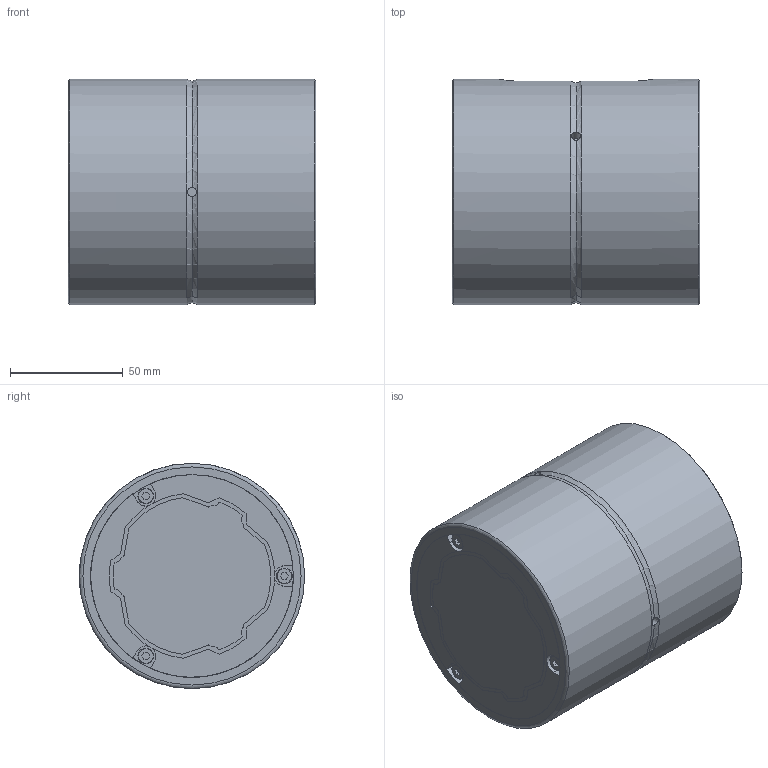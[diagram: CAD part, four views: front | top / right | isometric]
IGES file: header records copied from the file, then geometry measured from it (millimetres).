
Start section: Data from Parasolid IGES Translator 26.0.171, Copyright(c) 2006 Siemens PLM Software. All Rights Reserved.
Global section: file name: SLS701110(00).igs; native system: By Siemens PLM Incorporated; preprocessor: XPlus GENERIC/IGES 26.0.171; author: Noname; organization: Noname; date: 20240523.114723; units: millimetre
Bounding box: 110 x 100 x 100 mm (x, y, z)
Surface area: 102153.3 mm2 (no closed solid volume)
Topology: 0 solids, 0 shells, 253 faces, 1382 edges, 1350 vertices
Faces by surface type: extrusion 132, revolution 121
